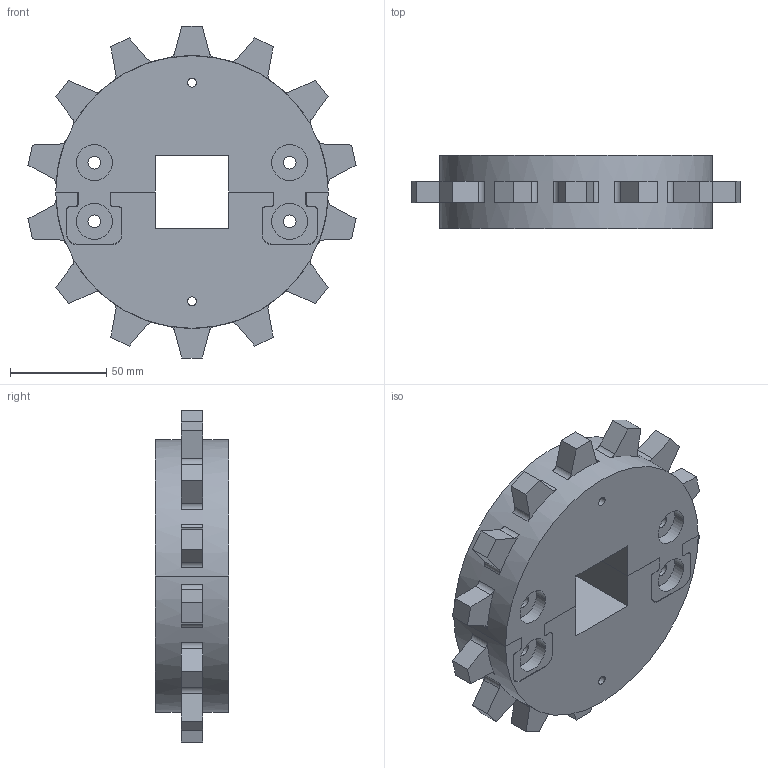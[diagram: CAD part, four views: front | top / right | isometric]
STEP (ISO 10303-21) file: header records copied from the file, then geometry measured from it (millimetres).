
FILE_DESCRIPTION((''),'2;1');
FILE_NAME('S1700_SPLIT_67X15_40_25_60_SQ_ASM','2008-12-12T',('jmumphre'),(''),'PRO/ENGINEER BY PARAMETRIC TECHNOLOGY CORPORATION, 2008150','PRO/ENGINEER BY PARAMETRIC TECHNOLOGY CORPORATION, 2008150','');
FILE_SCHEMA(('CONFIG_CONTROL_DESIGN'));
Length unit declared in the file: inch
Products named in the file (3): S1700_SPLIT_67X15_40_25_60__AF0; S1700_SPLIT_67X15_40_25_60__AF1; S1700_SPLIT_67X15_40_25_60_SQ_ASM
Assembly tree (2 placements, depth 2):
  S1700_SPLIT_67X15_40_25_60_SQ_ASM
    S1700_SPLIT_67X15_40_25_60__AF0
    S1700_SPLIT_67X15_40_25_60__AF1
Bounding box: 170.39 x 37.99 x 172.34 mm (x, y, z)
Volume: 558530.8 mm3; surface area: 90974 mm2
Topology: 2 solids, 2 shells, 270 faces, 732 edges, 488 vertices
Faces by surface type: plane 156, cylinder 114
Entity records: 8706 total; most frequent: DIRECTION 1538, CARTESIAN_POINT 1495, ORIENTED_EDGE 1464, EDGE_CURVE 732, AXIS2_PLACEMENT_3D 531, VERTEX_POINT 488, VECTOR 476, LINE 476
